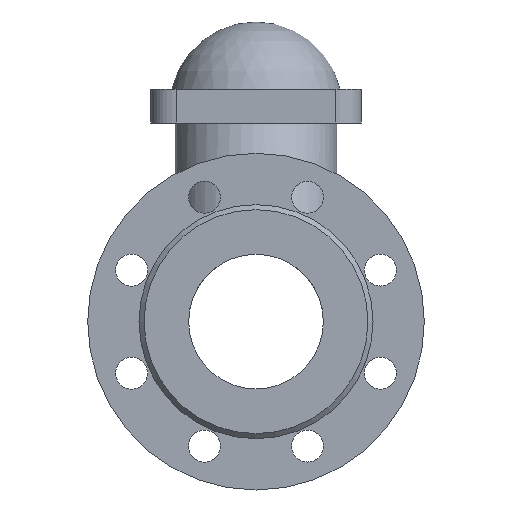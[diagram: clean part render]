
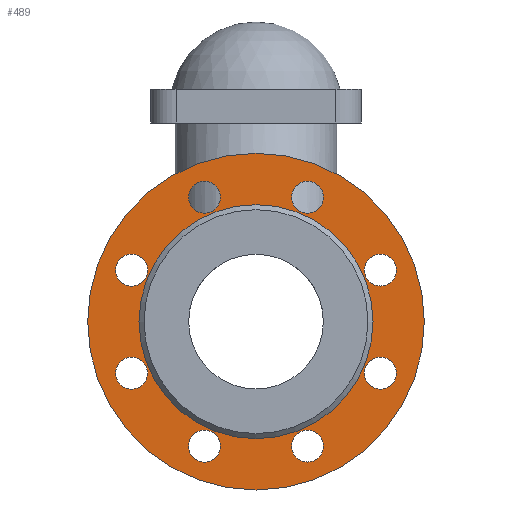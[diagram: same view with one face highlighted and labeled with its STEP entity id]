
A CAD part, front view. The second image highlights one B-rep face of the part: STEP entity #489.
In plain terms, the highlighted planar face has unit normal (0, -1, 0).
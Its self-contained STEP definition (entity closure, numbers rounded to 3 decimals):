
#489=ADVANCED_FACE('',(#1252,#1254,#1256,#1258,#1260,#1262,#1264,#1266,#1268,#1270),
#1272,.T.);
#1252=FACE_BOUND('',#1253,.T.);
#1253=EDGE_LOOP('',(#1653));
#1254=FACE_BOUND('',#1255,.T.);
#1255=EDGE_LOOP('',(#1654));
#1256=FACE_BOUND('',#1257,.T.);
#1257=EDGE_LOOP('',(#1655));
#1258=FACE_BOUND('',#1259,.T.);
#1259=EDGE_LOOP('',(#1656));
#1260=FACE_BOUND('',#1261,.T.);
#1261=EDGE_LOOP('',(#1657));
#1262=FACE_BOUND('',#1263,.T.);
#1263=EDGE_LOOP('',(#1658));
#1264=FACE_BOUND('',#1265,.T.);
#1265=EDGE_LOOP('',(#1659));
#1266=FACE_BOUND('',#1267,.T.);
#1267=EDGE_LOOP('',(#1660));
#1268=FACE_BOUND('',#1269,.T.);
#1269=EDGE_LOOP('',(#1661));
#1270=FACE_BOUND('',#1271,.T.);
#1271=EDGE_LOOP('',(#1662));
#1272=PLANE('',#1273);
#1273=AXIS2_PLACEMENT_3D('',#1274,#1275,#1276);
#1274=CARTESIAN_POINT('',(0.,-127.,0.));
#1275=DIRECTION('',(0.,-1.,0.));
#1276=DIRECTION('',(0.,0.,1.));
#1653=ORIENTED_EDGE('',*,*,#1844,.F.);
#1654=ORIENTED_EDGE('',*,*,#1852,.T.);
#1655=ORIENTED_EDGE('',*,*,#1851,.T.);
#1656=ORIENTED_EDGE('',*,*,#1850,.T.);
#1657=ORIENTED_EDGE('',*,*,#1849,.T.);
#1658=ORIENTED_EDGE('',*,*,#1848,.T.);
#1659=ORIENTED_EDGE('',*,*,#1847,.T.);
#1660=ORIENTED_EDGE('',*,*,#1846,.T.);
#1661=ORIENTED_EDGE('',*,*,#1863,.T.);
#1662=ORIENTED_EDGE('',*,*,#1845,.T.);
#1844=EDGE_CURVE('',#2058,#2058,#2059,.T.);
#1845=EDGE_CURVE('',#2060,#2060,#2061,.F.);
#1846=EDGE_CURVE('',#2062,#2062,#2063,.F.);
#1847=EDGE_CURVE('',#2064,#2064,#2065,.F.);
#1848=EDGE_CURVE('',#2066,#2066,#2067,.F.);
#1849=EDGE_CURVE('',#2068,#2068,#2069,.F.);
#1850=EDGE_CURVE('',#2070,#2070,#2071,.F.);
#1851=EDGE_CURVE('',#2072,#2072,#2073,.F.);
#1852=EDGE_CURVE('',#2074,#2074,#2075,.F.);
#1863=EDGE_CURVE('',#2096,#2096,#2097,.T.);
#2058=VERTEX_POINT('',#2806);
#2059=CIRCLE('',#2807,100.);
#2060=VERTEX_POINT('',#2811);
#2061=CIRCLE('',#2812,9.5);
#2062=VERTEX_POINT('',#2816);
#2063=CIRCLE('',#2817,9.5);
#2064=VERTEX_POINT('',#2821);
#2065=CIRCLE('',#2822,9.5);
#2066=VERTEX_POINT('',#2826);
#2067=CIRCLE('',#2827,9.5);
#2068=VERTEX_POINT('',#2831);
#2069=CIRCLE('',#2832,9.5);
#2070=VERTEX_POINT('',#2836);
#2071=CIRCLE('',#2837,9.5);
#2072=VERTEX_POINT('',#2841);
#2073=CIRCLE('',#2842,9.5);
#2074=VERTEX_POINT('',#2846);
#2075=CIRCLE('',#2847,9.5);
#2096=VERTEX_POINT('',#2901);
#2097=CIRCLE('',#2902,69.5);
#2806=CARTESIAN_POINT('',(0.,-127.,100.));
#2807=AXIS2_PLACEMENT_3D('',#2808,#2809,#2810);
#2808=CARTESIAN_POINT('',(0.,-127.,0.));
#2809=DIRECTION('',(0.,1.,0.));
#2810=DIRECTION('',(0.,0.,1.));
#2811=CARTESIAN_POINT('',(-21.115,-127.,73.91));
#2812=AXIS2_PLACEMENT_3D('',#2813,#2814,#2815);
#2813=CARTESIAN_POINT('',(-30.615,-127.,73.91));
#2814=DIRECTION('',(0.,-1.,0.));
#2815=DIRECTION('',(1.,0.,0.));
#2816=CARTESIAN_POINT('',(-67.193,-127.,37.332));
#2817=AXIS2_PLACEMENT_3D('',#2818,#2819,#2820);
#2818=CARTESIAN_POINT('',(-73.91,-127.,30.615));
#2819=DIRECTION('',(0.,-1.,0.));
#2820=DIRECTION('',(0.707,0.,0.707));
#2821=CARTESIAN_POINT('',(-73.91,-127.,-21.115));
#2822=AXIS2_PLACEMENT_3D('',#2823,#2824,#2825);
#2823=CARTESIAN_POINT('',(-73.91,-127.,-30.615));
#2824=DIRECTION('',(0.,-1.,0.));
#2825=DIRECTION('',(0.,0.,1.));
#2826=CARTESIAN_POINT('',(-37.332,-127.,-67.193));
#2827=AXIS2_PLACEMENT_3D('',#2828,#2829,#2830);
#2828=CARTESIAN_POINT('',(-30.615,-127.,-73.91));
#2829=DIRECTION('',(0.,-1.,0.));
#2830=DIRECTION('',(-0.707,0.,0.707));
#2831=CARTESIAN_POINT('',(21.115,-127.,-73.91));
#2832=AXIS2_PLACEMENT_3D('',#2833,#2834,#2835);
#2833=CARTESIAN_POINT('',(30.615,-127.,-73.91));
#2834=DIRECTION('',(0.,-1.,0.));
#2835=DIRECTION('',(-1.,0.,0.));
#2836=CARTESIAN_POINT('',(67.193,-127.,-37.332));
#2837=AXIS2_PLACEMENT_3D('',#2838,#2839,#2840);
#2838=CARTESIAN_POINT('',(73.91,-127.,-30.615));
#2839=DIRECTION('',(0.,-1.,0.));
#2840=DIRECTION('',(-0.707,0.,-0.707));
#2841=CARTESIAN_POINT('',(73.91,-127.,21.115));
#2842=AXIS2_PLACEMENT_3D('',#2843,#2844,#2845);
#2843=CARTESIAN_POINT('',(73.91,-127.,30.615));
#2844=DIRECTION('',(0.,-1.,0.));
#2845=DIRECTION('',(0.,0.,-1.));
#2846=CARTESIAN_POINT('',(37.332,-127.,67.193));
#2847=AXIS2_PLACEMENT_3D('',#2848,#2849,#2850);
#2848=CARTESIAN_POINT('',(30.615,-127.,73.91));
#2849=DIRECTION('',(0.,-1.,0.));
#2850=DIRECTION('',(0.707,0.,-0.707));
#2901=CARTESIAN_POINT('',(0.,-127.,69.5));
#2902=AXIS2_PLACEMENT_3D('',#2903,#2904,#2905);
#2903=CARTESIAN_POINT('',(0.,-127.,0.));
#2904=DIRECTION('',(0.,1.,0.));
#2905=DIRECTION('',(0.,0.,1.));
